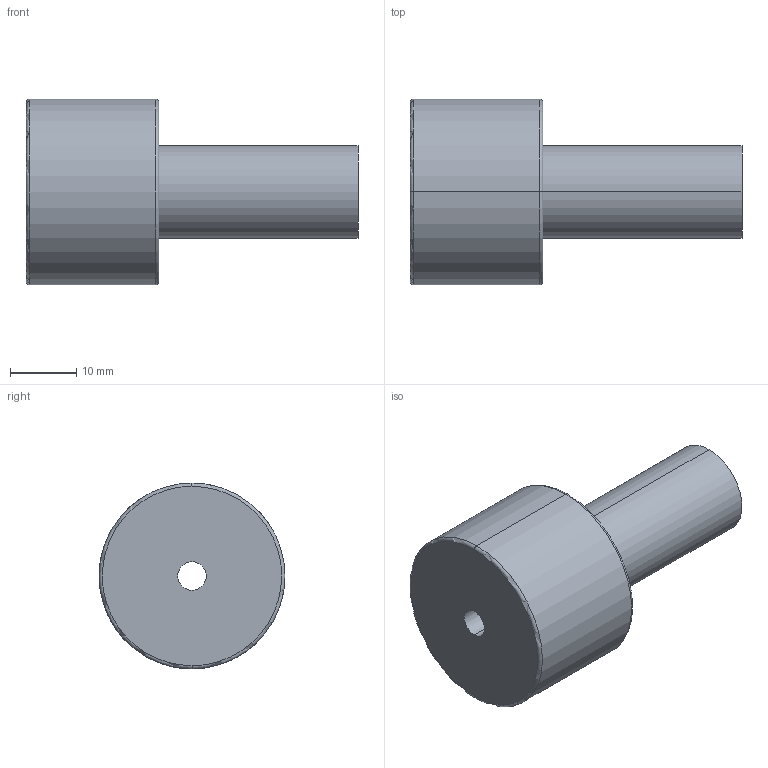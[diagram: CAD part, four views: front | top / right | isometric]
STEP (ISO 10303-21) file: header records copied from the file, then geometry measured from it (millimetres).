
FILE_DESCRIPTION(('CATIA V5 STEP Exchange'),'2;1');
FILE_NAME('C:\Users\Utente\Desktop\IO LAVORO\3D X SITO CF\X SITO\PLASTICA\3D files 367\367F-14X50.stp','2021-03-24T15:55:53+00:00',('none'),('none'),'CATIA Version 5 Release 20 GA (IN-10)','CATIA V5 STEP AP203','none');
FILE_SCHEMA(('CONFIG_CONTROL_DESIGN'));
Length unit declared in the file: millimetre
Products named in the file (1): 367F-14X50
Bounding box: 50 x 28 x 28 mm (x, y, z)
Volume: 15665.8 mm3; surface area: 5101.6 mm2
Topology: 1 solids, 1 shells, 13 faces, 42 edges, 32 vertices
Faces by surface type: torus 4, cylinder 4, plane 3, cone 2
Entity records: 614 total; most frequent: CARTESIAN_POINT 200, ORIENTED_EDGE 84, DIRECTION 60, AXIS2_PLACEMENT_3D 42, EDGE_CURVE 42, VERTEX_POINT 32, CIRCLE 28, EDGE_LOOP 16
